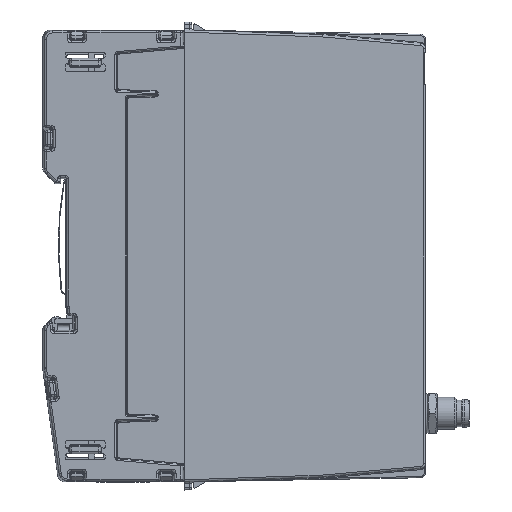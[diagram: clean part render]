
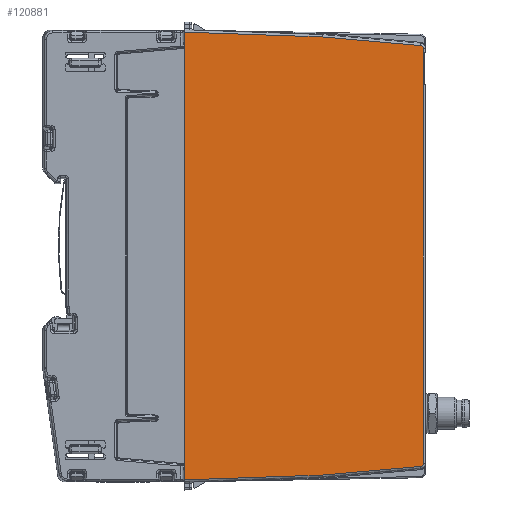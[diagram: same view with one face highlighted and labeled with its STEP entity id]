
A CAD part, left-side view. The second image highlights one B-rep face of the part: STEP entity #120881.
In plain terms, the highlighted planar face has unit normal (-1, -0.018, 0).
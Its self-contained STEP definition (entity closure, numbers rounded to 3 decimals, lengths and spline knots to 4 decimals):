
#11058=FACE_OUTER_BOUND('',#17710,.T.);
#17710=EDGE_LOOP('',(#94961,#94962,#94963,#94964,#94965,#94966,#94967,#94968,
#94969,#94970));
#28280=LINE('',#202198,#40058);
#28281=LINE('',#202204,#40059);
#28282=LINE('',#202206,#40060);
#28283=LINE('',#202208,#40061);
#28284=LINE('',#202209,#40062);
#28285=LINE('',#202211,#40063);
#28286=LINE('',#202215,#40064);
#28287=LINE('',#202218,#40065);
#40058=VECTOR('',#153156,39.3701);
#40059=VECTOR('',#153163,39.3701);
#40060=VECTOR('',#153164,39.3701);
#40061=VECTOR('',#153165,39.3701);
#40062=VECTOR('',#153166,39.3701);
#40063=VECTOR('',#153167,39.3701);
#40064=VECTOR('',#153170,39.3701);
#40065=VECTOR('',#153173,39.3701);
#44823=ELLIPSE('',#129240,0.0315,0.0315);
#44824=ELLIPSE('',#129241,0.0315,0.0315);
#52484=VERTEX_POINT('',#202196);
#52485=VERTEX_POINT('',#202197);
#52486=VERTEX_POINT('',#202202);
#52487=VERTEX_POINT('',#202203);
#52488=VERTEX_POINT('',#202205);
#52489=VERTEX_POINT('',#202207);
#52490=VERTEX_POINT('',#202210);
#52491=VERTEX_POINT('',#202212);
#52492=VERTEX_POINT('',#202214);
#52493=VERTEX_POINT('',#202216);
#67219=EDGE_CURVE('',#52484,#52485,#28280,.T.);
#67222=EDGE_CURVE('',#52486,#52487,#28281,.T.);
#67223=EDGE_CURVE('',#52487,#52488,#28282,.T.);
#67224=EDGE_CURVE('',#52489,#52488,#28283,.T.);
#67225=EDGE_CURVE('',#52489,#52484,#28284,.T.);
#67226=EDGE_CURVE('',#52485,#52490,#28285,.T.);
#67227=EDGE_CURVE('',#52490,#52491,#44823,.T.);
#67228=EDGE_CURVE('',#52491,#52492,#28286,.T.);
#67229=EDGE_CURVE('',#52492,#52493,#44824,.T.);
#67230=EDGE_CURVE('',#52493,#52486,#28287,.T.);
#94961=ORIENTED_EDGE('',*,*,#67222,.T.);
#94962=ORIENTED_EDGE('',*,*,#67223,.T.);
#94963=ORIENTED_EDGE('',*,*,#67224,.F.);
#94964=ORIENTED_EDGE('',*,*,#67225,.T.);
#94965=ORIENTED_EDGE('',*,*,#67219,.T.);
#94966=ORIENTED_EDGE('',*,*,#67226,.T.);
#94967=ORIENTED_EDGE('',*,*,#67227,.T.);
#94968=ORIENTED_EDGE('',*,*,#67228,.T.);
#94969=ORIENTED_EDGE('',*,*,#67229,.T.);
#94970=ORIENTED_EDGE('',*,*,#67230,.T.);
#109546=PLANE('',#129239);
#120881=ADVANCED_FACE('',(#11058),#109546,.T.);
#129239=AXIS2_PLACEMENT_3D('',#202201,#153161,#153162);
#129240=AXIS2_PLACEMENT_3D('',#202213,#153168,#153169);
#129241=AXIS2_PLACEMENT_3D('',#202217,#153171,#153172);
#153156=DIRECTION('',(0.017,-0.999,0.035));
#153161=DIRECTION('center_axis',(-1.,-0.017,
0.));
#153162=DIRECTION('ref_axis',(-0.017,1.,0.));
#153163=DIRECTION('',(-0.017,0.999,0.035));
#153164=DIRECTION('',(0.,0.,-1.));
#153165=DIRECTION('',(0.,0.,1.));
#153166=DIRECTION('',(0.,0.,-1.));
#153167=DIRECTION('',(0.017,-0.996,0.087));
#153168=DIRECTION('center_axis',(-1.,-0.017,
0.));
#153169=DIRECTION('ref_axis',(0.017,-1.,0.));
#153170=DIRECTION('',(0.,0.,1.));
#153171=DIRECTION('center_axis',(-1.,-0.017,
0.));
#153172=DIRECTION('ref_axis',(0.017,-1.,0.));
#153173=DIRECTION('',(-0.017,0.996,0.087));
#202196=CARTESIAN_POINT('',(-0.0227,-0.8686,-4.2421));
#202197=CARTESIAN_POINT('',(0.0007,-2.2063,-4.1954));
#202198=CARTESIAN_POINT('',(-0.0282,-0.5512,-4.2532));
#202201=CARTESIAN_POINT('Origin',(-0.0295,-0.4749,
-2.0669));
#202202=CARTESIAN_POINT('',(0.0007,-2.2063,0.0616));
#202203=CARTESIAN_POINT('',(-0.0227,-0.8686,0.1083));
#202204=CARTESIAN_POINT('',(-0.0282,-0.5512,0.1194));
#202205=CARTESIAN_POINT('',(-0.0227,-0.8686,-0.0312));
#202206=CARTESIAN_POINT('',(-0.0227,-0.8686,0.128));
#202207=CARTESIAN_POINT('',(-0.0227,-0.8686,-4.1027));
#202208=CARTESIAN_POINT('',(-0.0227,-0.8686,-7.5932));
#202209=CARTESIAN_POINT('',(-0.0227,-0.8686,0.128));
#202210=CARTESIAN_POINT('',(0.0174,-3.163,-4.1117));
#202211=CARTESIAN_POINT('',(-0.0261,-0.6728,-4.3296));
#202212=CARTESIAN_POINT('',(0.0179,-3.1918,-4.0803));
#202213=CARTESIAN_POINT('Origin',(0.0173,-3.1603,-4.0803));
#202214=CARTESIAN_POINT('',(0.0179,-3.1918,-0.0535));
#202215=CARTESIAN_POINT('',(0.0179,-3.1918,-0.0535));
#202216=CARTESIAN_POINT('',(0.0174,-3.163,-0.0221));
#202217=CARTESIAN_POINT('Origin',(0.0173,-3.1603,
-0.0535));
#202218=CARTESIAN_POINT('',(-0.0261,-0.6728,0.1957));
